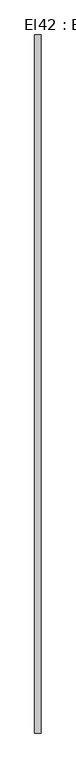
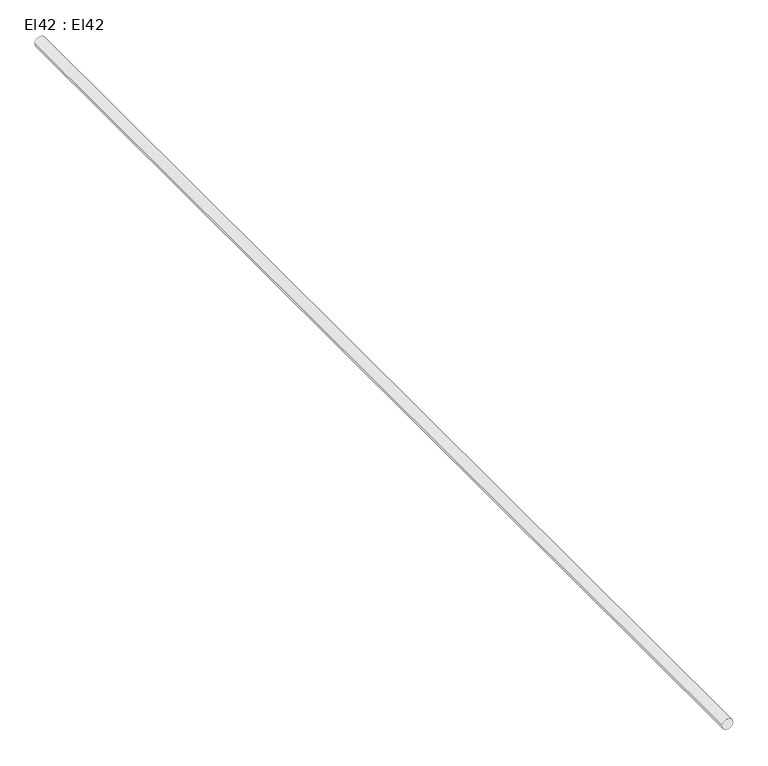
"""IFC4 building model written with IfcOpenShell, lengths in millimetres: cable carrier segment geometry, El42 : El42."""

from ifc_helpers import new_model, si_unit, point, frame, frame_2d, origin, place, context, project, spatial, circle_curve, trimmed, segment, composite_curve, outline, extrude, source, transform, mapped, element, save


def el42_el42_b6c3e5eb(model_context):
    return source(origin(), model_context, "Body", "SweptSolid", [
        extrude(outline(composite_curve([segment(trimmed(circle_curve(frame_2d((2950.0, 10562.5)), 9.5), [point((2950.0, 10553.0))], [point((2950.0, 10572.0))], False, "CARTESIAN"), True, "CONTINUOUS"), segment(trimmed(circle_curve(frame_2d((2950.0, 10562.5)), 9.5), [point((2950.0, 10572.0))], [point((2950.0, 10553.0))], False, "CARTESIAN"), True, "CONTINUOUS")], self_intersect=False)), frame((0.0, 16623.2, 0.0), z_axis=(0.0, 1.0, 0.0), x_axis=(0.0, 0.0, 1.0)), (0.0, 0.0, 1.0), 2100.0),
    ])


if __name__ == "__main__":
    model = new_model("IFC4")
    model_context = context("Model", 3, world=origin())
    ifc_project = project(units=[si_unit("LENGTHUNIT", "METRE", prefix="MILLI")], contexts=[model_context])
    site = spatial("IfcSite", under=ifc_project)
    building = spatial("IfcBuilding", under=site)
    placement = place(None, origin())
    el42_el42_shape = el42_el42_b6c3e5eb(model_context)
    element("IfcCableCarrierSegment", 1, ObjectType="El42 : El42", at=placement, inside=building, context=model_context, shape_type="MappedRepresentation", body=[
        mapped(el42_el42_shape, transform((0.0, 0.0, 0.0), x_axis=(1.0, 0.0, 0.0), y_axis=(0.0, 1.0, 0.0), z_axis=(0.0, 0.0, 1.0))),
    ])
    save(model, "model.ifc")
